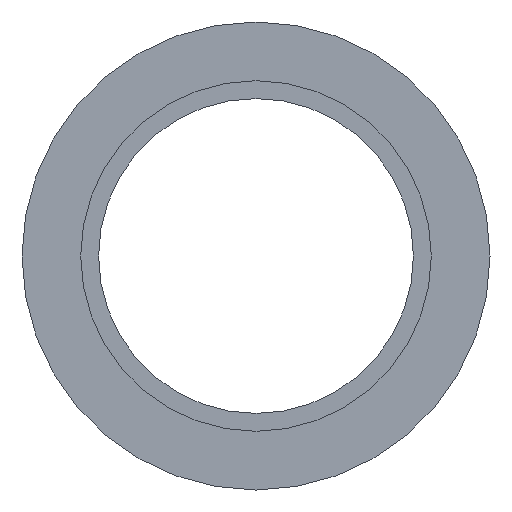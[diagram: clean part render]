
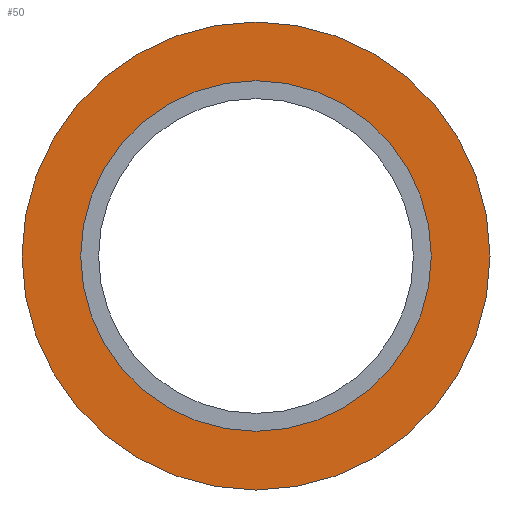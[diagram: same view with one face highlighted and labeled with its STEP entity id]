
A CAD part, left-side view. The second image highlights one B-rep face of the part: STEP entity #50.
In plain terms, the highlighted planar face has unit normal (-1, 0, 0).
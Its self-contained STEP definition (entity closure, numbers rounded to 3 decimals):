
#50=ADVANCED_FACE('',(#72,#73),#63,.T.);
#63=PLANE('',#210);
#72=FACE_BOUND('',#102,.T.);
#73=FACE_BOUND('',#103,.T.);
#102=EDGE_LOOP('',(#132));
#103=EDGE_LOOP('',(#133));
#132=ORIENTED_EDGE('',*,*,#174,.T.);
#133=ORIENTED_EDGE('',*,*,#173,.F.);
#158=VERTEX_POINT('',#305);
#159=VERTEX_POINT('',#308);
#173=EDGE_CURVE('',#158,#158,#188,.T.);
#174=EDGE_CURVE('',#159,#159,#189,.T.);
#188=CIRCLE('',#207,20.6);
#189=CIRCLE('',#209,27.5);
#207=AXIS2_PLACEMENT_3D('',#304,#246,#247);
#209=AXIS2_PLACEMENT_3D('',#307,#250,#251);
#210=AXIS2_PLACEMENT_3D('',#309,#252,#253);
#246=DIRECTION('',(-1.,0.,0.));
#247=DIRECTION('',(0.,0.,1.));
#250=DIRECTION('',(-1.,0.,0.));
#251=DIRECTION('',(0.,0.,1.));
#252=DIRECTION('',(-1.,0.,0.));
#253=DIRECTION('',(0.,0.,1.));
#304=CARTESIAN_POINT('',(0.,0.,0.));
#305=CARTESIAN_POINT('',(0.,0.,20.6));
#307=CARTESIAN_POINT('',(0.,0.,0.));
#308=CARTESIAN_POINT('',(0.,0.,27.5));
#309=CARTESIAN_POINT('',(0.,20.6,0.));
